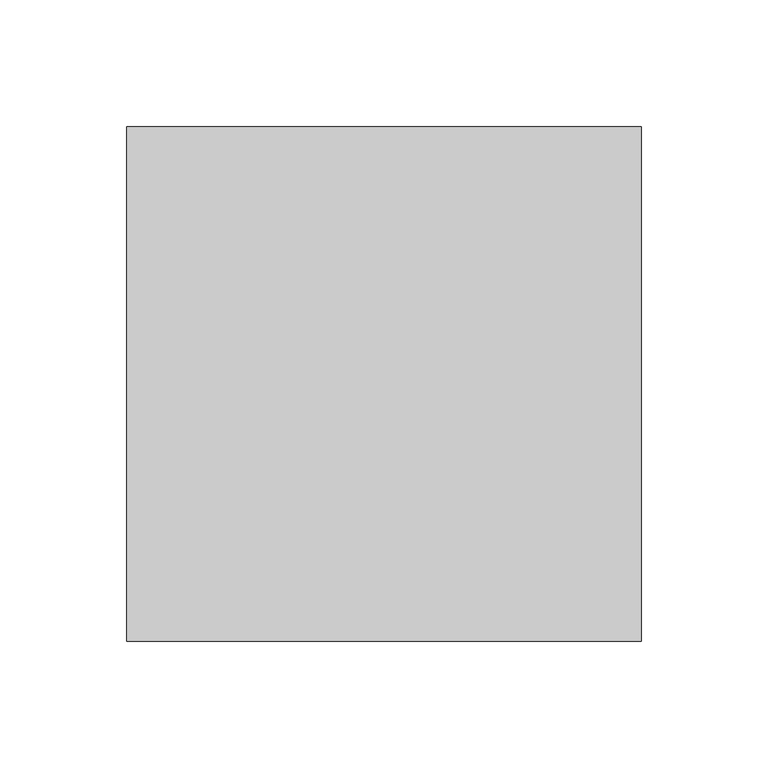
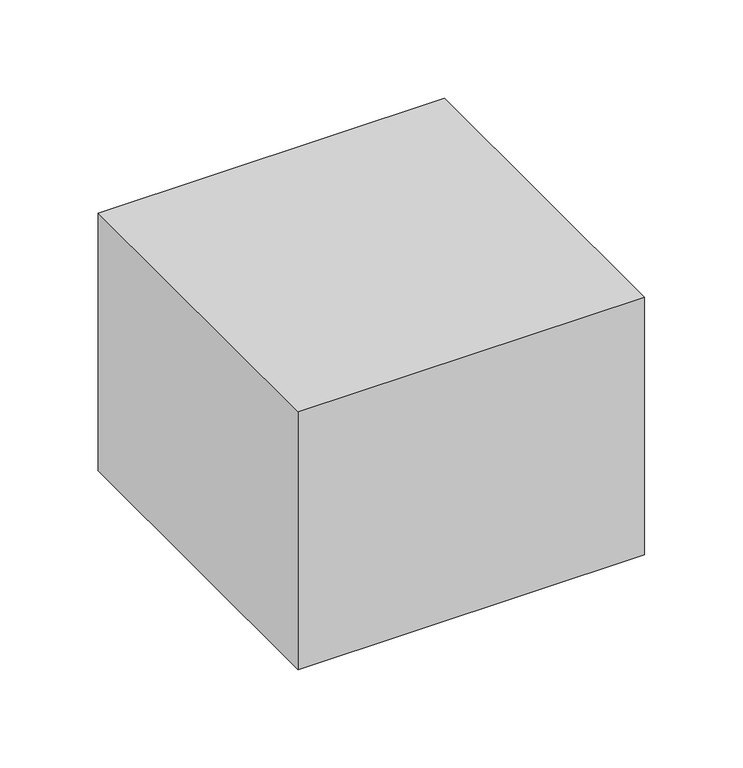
"""IFC4 building model written with IfcOpenShell, lengths in millimetres: proxy geometry, Placeholder_Polyseam : Placeholder_Polyseam."""

from ifc_helpers import new_model, si_unit, origin, origin_with_axes, place, context, project, spatial, polyline, outline, extrude, source, transform, mapped, element, save


def generic_models_bc7bd0ed(model_context):
    return source(origin(), model_context, "Body", "SweptSolid", [
        extrude(outline(polyline([(-101.6, 101.6), (101.6, 101.6), (101.6, -101.6), (-101.6, -101.6), (-101.6, 101.6)])), origin_with_axes(), (0.0, 0.0, 1.0), 160.0),
    ])


if __name__ == "__main__":
    model = new_model("IFC4")
    model_context = context("Model", 3, world=origin())
    ifc_project = project(units=[si_unit("LENGTHUNIT", "METRE", prefix="MILLI")], contexts=[model_context])
    site = spatial("IfcSite", under=ifc_project)
    building = spatial("IfcBuilding", under=site)
    placement = place(None, origin())
    generic_models_shape = generic_models_bc7bd0ed(model_context)
    element("IfcBuildingElementProxy", 1, Name="Placeholder_Polyseam : Placeholder_Polyseam", ObjectType="Placeholder_Polyseam : Placeholder_Polyseam", at=placement, inside=building, context=model_context, shape_type="MappedRepresentation", body=[
        mapped(generic_models_shape, transform((0.0, 0.0, 0.0), x_axis=(1.0, 0.0, 0.0), y_axis=(0.0, 1.0, 0.0), z_axis=(0.0, 0.0, 1.0))),
    ])
    save(model, "model.ifc")
